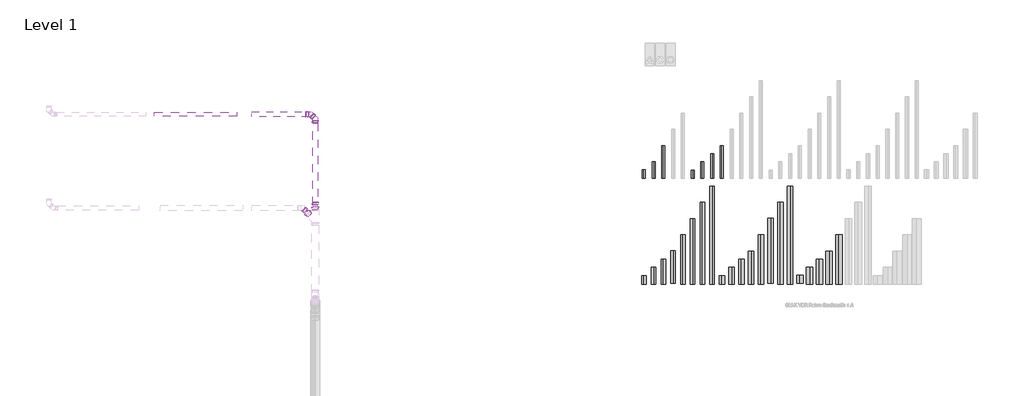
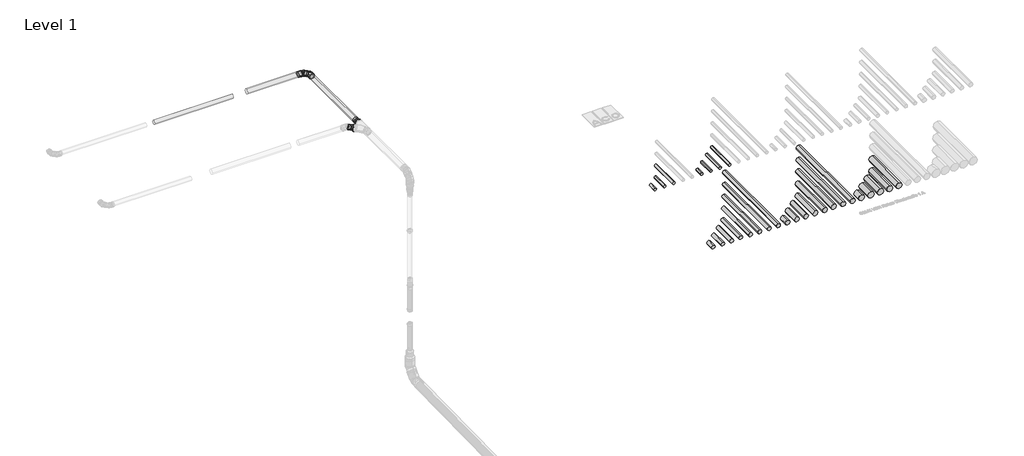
# One storey, part 2 of 4: 31 pipe segments, 15 pipe fittings.
"""IFC4 building model written with IfcOpenShell, lengths in millimetres."""

from ifc_helpers import new_model, si_unit, point, frame, frame_2d, origin, place, context, project, spatial, circle_curve, trimmed, segment, composite_curve, outline, extrude, transform, mapped, element, save
from components import double_bend_d3bed9e9, std_nested_46ab66b3, std_nested_b22cb0b6, std_nested_90d89c33, std_nested_8d21ddc5, std_nested_0b754541, std_nested_fe88de9d, std_nested_dd37de27, std_nested_95e7eb0f

model = new_model("IFC4")

# Units and contexts
model_context = context("Model", 3, world=origin())
ifc_project = project(units=[si_unit("LENGTHUNIT", "METRE", prefix="MILLI")], contexts=[model_context])

# Site, building, storey
site = spatial("IfcSite", under=ifc_project)
building = spatial("IfcBuilding", under=site)
storey = spatial("IfcBuildingStorey", under=building, Name="Level 1", Elevation=0.0)

# Pipe fittings
placement = place(None, origin())
double_bend_shape = double_bend_d3bed9e9(model_context)
element("IfcPipeFitting", 1, ObjectType="PIF_ST_UN_GM-X compound pipe multi-bend_ACO : double bend", at=placement, inside=storey, context=model_context, shape_type="MappedRepresentation", body=[
    mapped(double_bend_shape, transform((-9614.684142, 5223.6615366, 6367.4522786), x_axis=(0.0, 1.0, 0.0), y_axis=(-1.0, 0.0, 0.0), z_axis=(0.0, 0.0, 1.0))),
])
std_nested_shape = std_nested_46ab66b3(model_context)
element("IfcPipeFitting", 2, ObjectType="ZZZ_do not use_PIF_GEN_WPB_GM-X (compound) pipe seal_ACO : std (nested)", at=placement, inside=storey, context=model_context, shape_type="MappedRepresentation", body=[
    mapped(std_nested_shape, transform((-9887.5699643, 5223.6615366, 6367.4522786), x_axis=(0.0, 1.0000000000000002, 0.0), y_axis=(0.0, 0.0, -1.0000000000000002), z_axis=(-1.0000000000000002, 0.0, 0.0))),
])
element("IfcPipeFitting", 3, ObjectType="ZZZ_do not use_PIF_GEN_WPB_GM-X (compound) pipe seal_ACO : std (nested)", at=placement, inside=storey, context=model_context, shape_type="MappedRepresentation", body=[
    mapped(std_nested_shape, transform((-9710.1435574, 5181.2351298, 6367.4522786), x_axis=(0.7071067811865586, 0.7071067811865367, 0.0), y_axis=(0.0, 0.0, -1.0000000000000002), z_axis=(-0.7071067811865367, 0.7071067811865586, 0.0))),
])
element("IfcPipeFitting", 4, ObjectType="ZZZ_do not use_PIF_GEN_WPB_GM-X (compound) pipe seal_ACO : std (nested)", at=placement, inside=storey, context=model_context, shape_type="MappedRepresentation", body=[
    mapped(std_nested_shape, transform((-9954.0953969, 2291.6815182, 6367.4522786), x_axis=(0.7071067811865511, 0.7071067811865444, 0.0), y_axis=(0.0, 0.0, -1.0000000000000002), z_axis=(-0.7071067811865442, 0.707106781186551, 0.0))),
])
element("IfcPipeFitting", 5, ObjectType="ZZZ_do not use_PIF_GEN_WPB_GM-X (compound) pipe seal_ACO : std (nested)", at=placement, inside=storey, context=model_context, shape_type="MappedRepresentation", body=[
    mapped(std_nested_shape, transform((-9614.684142, 2502.2702632, 6367.4522786), x_axis=(1.0, 0.0, 0.0), y_axis=(0.0, 0.0, -1.0), z_axis=(0.0, 1.0, 0.0))),
])
std_nested_2_shape = std_nested_b22cb0b6(model_context)
element("IfcPipeFitting", 6, ObjectType="ZZZ_do not use_PIF_GEN_WPB_GM-X (compound) pipe seal_ACO : std (nested)", at=placement, inside=storey, context=model_context, shape_type="MappedRepresentation", body=[
    mapped(std_nested_2_shape, transform((-9614.684142, 4950.7757143, 6367.4522786), x_axis=(-1.0, 0.0, 0.0), y_axis=(0.0, 0.0, -1.0), z_axis=(0.0, -1.0, 0.0))),
])
std_nested_3_shape = std_nested_90d89c33(model_context)
element("IfcPipeFitting", 7, ObjectType="ZZZ_do not use_PIF_ST_WPB_GM-X compound pipe clamp_ACO : std (nested)", at=placement, inside=storey, context=model_context, shape_type="MappedRepresentation", body=[
    mapped(std_nested_3_shape, transform((-9887.5699643, 5223.6615366, 6367.4522786), x_axis=(0.0, 1.0000000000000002, 0.0), y_axis=(0.0, 0.0, -1.0000000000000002), z_axis=(-1.0000000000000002, 0.0, 0.0))),
])
element("IfcPipeFitting", 8, ObjectType="ZZZ_do not use_PIF_ST_WPB_GM-X compound pipe clamp_ACO : std (nested)", at=placement, inside=storey, context=model_context, shape_type="MappedRepresentation", body=[
    mapped(std_nested_3_shape, transform((-9710.1435574, 5181.2351298, 6367.4522786), x_axis=(0.7071067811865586, 0.7071067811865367, 0.0), y_axis=(0.0, 0.0, -1.0000000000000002), z_axis=(-0.7071067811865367, 0.7071067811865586, 0.0))),
])
element("IfcPipeFitting", 9, ObjectType="ZZZ_do not use_PIF_ST_WPB_GM-X compound pipe clamp_ACO : std (nested)", at=placement, inside=storey, context=model_context, shape_type="MappedRepresentation", body=[
    mapped(std_nested_3_shape, transform((-9954.0953969, 2291.6815182, 6367.4522786), x_axis=(0.7071067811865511, 0.7071067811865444, 0.0), y_axis=(0.0, 0.0, -1.0000000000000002), z_axis=(-0.7071067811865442, 0.707106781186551, 0.0))),
])
element("IfcPipeFitting", 10, ObjectType="ZZZ_do not use_PIF_ST_WPB_GM-X compound pipe clamp_ACO : std (nested)", at=placement, inside=storey, context=model_context, shape_type="MappedRepresentation", body=[
    mapped(std_nested_3_shape, transform((-9614.684142, 2502.2702632, 6367.4522786), x_axis=(1.0, 0.0, 0.0), y_axis=(0.0, 0.0, -1.0), z_axis=(0.0, 1.0, 0.0))),
])
std_nested_4_shape = std_nested_8d21ddc5(model_context)
element("IfcPipeFitting", 11, ObjectType="ZZZ_do not use_PIF_ST_WPB_GM-X compound pipe clamp_ACO : std (nested)", at=placement, inside=storey, context=model_context, shape_type="MappedRepresentation", body=[
    mapped(std_nested_4_shape, transform((-9614.684142, 4950.7757143, 6367.4522786), x_axis=(-1.0, 0.0, 0.0), y_axis=(0.0, 0.0, -1.0), z_axis=(0.0, -1.0, 0.0))),
])
std_nested_5_shape = std_nested_0b754541(model_context)
element("IfcPipeFitting", 12, ObjectType="ZZZ_do not use_PIF_ST_WPB_GM-X compound pipe bend_ACO : std (nested)", at=placement, inside=storey, context=model_context, shape_type="MappedRepresentation", body=[
    mapped(std_nested_5_shape, transform((-9614.684142, 5085.7757143, 6367.4522786), x_axis=(0.0, 1.0, 0.0), y_axis=(-1.0, 0.0, 0.0), z_axis=(0.0, 0.0, 1.0))),
])
std_nested_6_shape = std_nested_fe88de9d(model_context)
element("IfcPipeFitting", 13, ObjectType="ZZZ_do not use_PIF_ST_WPB_GM-X compound pipe bend_ACO : std (nested)", at=placement, inside=storey, context=model_context, shape_type="MappedRepresentation", body=[
    mapped(std_nested_6_shape, transform((-9752.5699643, 5223.6615366, 6367.4522786), x_axis=(-0.7071067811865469, 0.7071067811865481, 0.0), y_axis=(-0.7071067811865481, -0.7071067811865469, 0.0), z_axis=(0.0, 0.0, 1.0))),
])
std_nested_7_shape = std_nested_dd37de27(model_context)
element("IfcPipeFitting", 14, ObjectType="ZZZ_do not use_PIF_ST_WPB_GM-X compound pipe reducer_ACO : std (nested)", at=placement, inside=storey, context=model_context, shape_type="MappedRepresentation", body=[
    mapped(std_nested_7_shape, transform((-9784.3897694, 2121.9758907, 6367.4522786), x_axis=(-0.7071067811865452, 0.70710678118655, 0.0), y_axis=(-0.7071067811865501, -0.7071067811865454, 0.0), z_axis=(0.0, 0.0, 1.0000000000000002))),
])
std_nested_8_shape = std_nested_95e7eb0f(model_context)
element("IfcPipeFitting", 15, ObjectType="ZZZ_do not use_PIF_ST_WPB_GM-X compound pipe reducer_ACO : std (nested)", at=placement, inside=storey, context=model_context, shape_type="MappedRepresentation", body=[
    mapped(std_nested_8_shape, transform((-9614.684142, 2262.2702632, 6367.4522786), x_axis=(0.0, -1.0, 0.0), y_axis=(1.0, 0.0, 0.0), z_axis=(0.0, 0.0, 1.0))),
])

# Pipe segments
element("IfcPipeSegment", 16, ObjectType="GM-X compound pipe", at=placement, inside=storey, context=model_context, shape_type="SweptSolid", body=[
    extrude(outline(composite_curve([segment(trimmed(circle_curve(frame_2d((0.0, 500.0)), 44.5), [point((0.0, 544.5))], [point((44.5, 500.0))], False, "CARTESIAN"), True, "CONTINUOUS"), segment(trimmed(circle_curve(frame_2d((0.0, 500.0)), 44.5), [point((44.5, 500.0))], [point((0.0, 455.5))], False, "CARTESIAN"), True, "CONTINUOUS"), segment(trimmed(circle_curve(frame_2d((0.0, 500.0)), 44.5), [point((0.0, 455.5))], [point((-44.5, 500.0))], False, "CARTESIAN"), True, "CONTINUOUS"), segment(trimmed(circle_curve(frame_2d((0.0, 500.0)), 44.5), [point((-44.5, 500.0))], [point((0.0, 544.5))], False, "CARTESIAN"), True, "CONTINUOUS")], self_intersect=False)), frame((0.0, 3250.0, 0.0), z_axis=(0.0, 1.0, 0.0), x_axis=(0.0, 0.0, 1.0)), (0.0, 0.0, 1.0), 260.0),
])
element("IfcPipeSegment", 17, ObjectType="GM-X compound pipe", at=placement, inside=storey, context=model_context, shape_type="SweptSolid", body=[
    extrude(outline(composite_curve([segment(trimmed(circle_curve(frame_2d((0.0, 800.0)), 44.5), [point((0.0, 844.5))], [point((44.5, 800.0))], False, "CARTESIAN"), True, "CONTINUOUS"), segment(trimmed(circle_curve(frame_2d((0.0, 800.0)), 44.5), [point((44.5, 800.0))], [point((0.0, 755.5))], False, "CARTESIAN"), True, "CONTINUOUS"), segment(trimmed(circle_curve(frame_2d((0.0, 800.0)), 44.5), [point((0.0, 755.5))], [point((-44.5, 800.0))], False, "CARTESIAN"), True, "CONTINUOUS"), segment(trimmed(circle_curve(frame_2d((0.0, 800.0)), 44.5), [point((-44.5, 800.0))], [point((0.0, 844.5))], False, "CARTESIAN"), True, "CONTINUOUS")], self_intersect=False)), frame((0.0, 3250.0, 0.0), z_axis=(0.0, 1.0, 0.0), x_axis=(0.0, 0.0, 1.0)), (0.0, 0.0, 1.0), 510.0),
])
element("IfcPipeSegment", 18, ObjectType="GM-X compound pipe", at=placement, inside=storey, context=model_context, shape_type="SweptSolid", body=[
    extrude(outline(composite_curve([segment(trimmed(circle_curve(frame_2d((0.0, 1100.0)), 44.5), [point((0.0, 1144.5))], [point((44.5, 1100.0))], False, "CARTESIAN"), True, "CONTINUOUS"), segment(trimmed(circle_curve(frame_2d((0.0, 1100.0)), 44.5), [point((44.5, 1100.0))], [point((0.0, 1055.5))], False, "CARTESIAN"), True, "CONTINUOUS"), segment(trimmed(circle_curve(frame_2d((0.0, 1100.0)), 44.5), [point((0.0, 1055.5))], [point((-44.5, 1100.0))], False, "CARTESIAN"), True, "CONTINUOUS"), segment(trimmed(circle_curve(frame_2d((0.0, 1100.0)), 44.5), [point((-44.5, 1100.0))], [point((0.0, 1144.5))], False, "CARTESIAN"), True, "CONTINUOUS")], self_intersect=False)), frame((0.0, 3250.0, 0.0), z_axis=(0.0, 1.0, 0.0), x_axis=(0.0, 0.0, 1.0)), (0.0, 0.0, 1.0), 1010.0),
])
element("IfcPipeSegment", 19, ObjectType="GM-X compound pipe", at=placement, inside=storey, context=model_context, shape_type="SweptSolid", body=[
    extrude(outline(composite_curve([segment(trimmed(circle_curve(frame_2d((0.0, 2000.0)), 44.5), [point((0.0, 2044.5))], [point((44.5, 2000.0))], False, "CARTESIAN"), True, "CONTINUOUS"), segment(trimmed(circle_curve(frame_2d((0.0, 2000.0)), 44.5), [point((44.5, 2000.0))], [point((0.0, 1955.5))], False, "CARTESIAN"), True, "CONTINUOUS"), segment(trimmed(circle_curve(frame_2d((0.0, 2000.0)), 44.5), [point((0.0, 1955.5))], [point((-44.5, 2000.0))], False, "CARTESIAN"), True, "CONTINUOUS"), segment(trimmed(circle_curve(frame_2d((0.0, 2000.0)), 44.5), [point((-44.5, 2000.0))], [point((0.0, 2044.5))], False, "CARTESIAN"), True, "CONTINUOUS")], self_intersect=False)), frame((0.0, 3250.0, 0.0), z_axis=(0.0, 1.0, 0.0), x_axis=(0.0, 0.0, 1.0)), (0.0, 0.0, 1.0), 258.0),
])
element("IfcPipeSegment", 20, ObjectType="GM-X compound pipe", at=placement, inside=storey, context=model_context, shape_type="SweptSolid", body=[
    extrude(outline(composite_curve([segment(trimmed(circle_curve(frame_2d((0.0, 2300.0)), 44.5), [point((0.0, 2344.5))], [point((44.5, 2300.0))], False, "CARTESIAN"), True, "CONTINUOUS"), segment(trimmed(circle_curve(frame_2d((0.0, 2300.0)), 44.5), [point((44.5, 2300.0))], [point((0.0, 2255.5))], False, "CARTESIAN"), True, "CONTINUOUS"), segment(trimmed(circle_curve(frame_2d((0.0, 2300.0)), 44.5), [point((0.0, 2255.5))], [point((-44.5, 2300.0))], False, "CARTESIAN"), True, "CONTINUOUS"), segment(trimmed(circle_curve(frame_2d((0.0, 2300.0)), 44.5), [point((-44.5, 2300.0))], [point((0.0, 2344.5))], False, "CARTESIAN"), True, "CONTINUOUS")], self_intersect=False)), frame((0.0, 3250.0, 0.0), z_axis=(0.0, 1.0, 0.0), x_axis=(0.0, 0.0, 1.0)), (0.0, 0.0, 1.0), 508.0),
])
element("IfcPipeSegment", 21, ObjectType="GM-X compound pipe", at=placement, inside=storey, context=model_context, shape_type="SweptSolid", body=[
    extrude(outline(composite_curve([segment(trimmed(circle_curve(frame_2d((0.0, 2600.0)), 44.5), [point((0.0, 2644.5))], [point((44.5, 2600.0))], False, "CARTESIAN"), True, "CONTINUOUS"), segment(trimmed(circle_curve(frame_2d((0.0, 2600.0)), 44.5), [point((44.5, 2600.0))], [point((0.0, 2555.5))], False, "CARTESIAN"), True, "CONTINUOUS"), segment(trimmed(circle_curve(frame_2d((0.0, 2600.0)), 44.5), [point((0.0, 2555.5))], [point((-44.5, 2600.0))], False, "CARTESIAN"), True, "CONTINUOUS"), segment(trimmed(circle_curve(frame_2d((0.0, 2600.0)), 44.5), [point((-44.5, 2600.0))], [point((0.0, 2644.5))], False, "CARTESIAN"), True, "CONTINUOUS")], self_intersect=False)), frame((0.0, 3250.0, 0.0), z_axis=(0.0, 1.0, 0.0), x_axis=(0.0, 0.0, 1.0)), (0.0, 0.0, 1.0), 758.0),
])
element("IfcPipeSegment", 22, ObjectType="GM-X compound pipe", at=placement, inside=storey, context=model_context, shape_type="SweptSolid", body=[
    extrude(outline(composite_curve([segment(trimmed(circle_curve(frame_2d((0.0, 2900.0)), 44.5), [point((0.0, 2944.5))], [point((44.5, 2900.0))], False, "CARTESIAN"), True, "CONTINUOUS"), segment(trimmed(circle_curve(frame_2d((0.0, 2900.0)), 44.5), [point((44.5, 2900.0))], [point((0.0, 2855.5))], False, "CARTESIAN"), True, "CONTINUOUS"), segment(trimmed(circle_curve(frame_2d((0.0, 2900.0)), 44.5), [point((0.0, 2855.5))], [point((-44.5, 2900.0))], False, "CARTESIAN"), True, "CONTINUOUS"), segment(trimmed(circle_curve(frame_2d((0.0, 2900.0)), 44.5), [point((-44.5, 2900.0))], [point((0.0, 2944.5))], False, "CARTESIAN"), True, "CONTINUOUS")], self_intersect=False)), frame((0.0, 3250.0, 0.0), z_axis=(0.0, 1.0, 0.0), x_axis=(0.0, 0.0, 1.0)), (0.0, 0.0, 1.0), 1008.0),
])
element("IfcPipeSegment", 23, ObjectType="GM-X compound pipe", at=placement, inside=storey, context=model_context, shape_type="SweptSolid", body=[
    extrude(outline(composite_curve([segment(trimmed(circle_curve(frame_2d((0.0, 500.0)), 67.0), [point((0.0, 567.0))], [point((67.0, 500.0))], False, "CARTESIAN"), True, "CONTINUOUS"), segment(trimmed(circle_curve(frame_2d((0.0, 500.0)), 67.0), [point((67.0, 500.0))], [point((0.0, 433.0))], False, "CARTESIAN"), True, "CONTINUOUS"), segment(trimmed(circle_curve(frame_2d((0.0, 500.0)), 67.0), [point((0.0, 433.0))], [point((-67.0, 500.0))], False, "CARTESIAN"), True, "CONTINUOUS"), segment(trimmed(circle_curve(frame_2d((0.0, 500.0)), 67.0), [point((-67.0, 500.0))], [point((0.0, 567.0))], False, "CARTESIAN"), True, "CONTINUOUS")], self_intersect=False)), frame((0.0, 0.0, 0.0), z_axis=(0.0, 1.0, 0.0), x_axis=(0.0, 0.0, 1.0)), (0.0, 0.0, 1.0), 260.0),
])
element("IfcPipeSegment", 24, ObjectType="GM-X compound pipe", at=placement, inside=storey, context=model_context, shape_type="SweptSolid", body=[
    extrude(outline(composite_curve([segment(trimmed(circle_curve(frame_2d((0.0, 800.0)), 67.0), [point((0.0, 867.0))], [point((67.0, 800.0))], False, "CARTESIAN"), True, "CONTINUOUS"), segment(trimmed(circle_curve(frame_2d((0.0, 800.0)), 67.0), [point((67.0, 800.0))], [point((0.0, 733.0))], False, "CARTESIAN"), True, "CONTINUOUS"), segment(trimmed(circle_curve(frame_2d((0.0, 800.0)), 67.0), [point((0.0, 733.0))], [point((-67.0, 800.0))], False, "CARTESIAN"), True, "CONTINUOUS"), segment(trimmed(circle_curve(frame_2d((0.0, 800.0)), 67.0), [point((-67.0, 800.0))], [point((0.0, 867.0))], False, "CARTESIAN"), True, "CONTINUOUS")], self_intersect=False)), frame((0.0, 0.0, 0.0), z_axis=(0.0, 1.0, 0.0), x_axis=(0.0, 0.0, 1.0)), (0.0, 0.0, 1.0), 510.0),
])
element("IfcPipeSegment", 25, ObjectType="GM-X compound pipe", at=placement, inside=storey, context=model_context, shape_type="SweptSolid", body=[
    extrude(outline(composite_curve([segment(trimmed(circle_curve(frame_2d((0.0, 1100.0)), 67.0), [point((0.0, 1167.0))], [point((67.0, 1100.0))], False, "CARTESIAN"), True, "CONTINUOUS"), segment(trimmed(circle_curve(frame_2d((0.0, 1100.0)), 67.0), [point((67.0, 1100.0))], [point((0.0, 1033.0))], False, "CARTESIAN"), True, "CONTINUOUS"), segment(trimmed(circle_curve(frame_2d((0.0, 1100.0)), 67.0), [point((0.0, 1033.0))], [point((-67.0, 1100.0))], False, "CARTESIAN"), True, "CONTINUOUS"), segment(trimmed(circle_curve(frame_2d((0.0, 1100.0)), 67.0), [point((-67.0, 1100.0))], [point((0.0, 1167.0))], False, "CARTESIAN"), True, "CONTINUOUS")], self_intersect=False)), frame((0.0, 0.0, 0.0), z_axis=(0.0, 1.0, 0.0), x_axis=(0.0, 0.0, 1.0)), (0.0, 0.0, 1.0), 760.0),
])
element("IfcPipeSegment", 26, ObjectType="GM-X compound pipe", at=placement, inside=storey, context=model_context, shape_type="SweptSolid", body=[
    extrude(outline(composite_curve([segment(trimmed(circle_curve(frame_2d((0.0, 1400.0)), 67.0), [point((0.0, 1467.0))], [point((67.0, 1400.0))], False, "CARTESIAN"), True, "CONTINUOUS"), segment(trimmed(circle_curve(frame_2d((0.0, 1400.0)), 67.0), [point((67.0, 1400.0))], [point((0.0, 1333.0))], False, "CARTESIAN"), True, "CONTINUOUS"), segment(trimmed(circle_curve(frame_2d((0.0, 1400.0)), 67.0), [point((0.0, 1333.0))], [point((-67.0, 1400.0))], False, "CARTESIAN"), True, "CONTINUOUS"), segment(trimmed(circle_curve(frame_2d((0.0, 1400.0)), 67.0), [point((-67.0, 1400.0))], [point((0.0, 1467.0))], False, "CARTESIAN"), True, "CONTINUOUS")], self_intersect=False)), frame((0.0, 16.3427665, 0.0), z_axis=(0.0, 1.0, 0.0), x_axis=(0.0, 0.0, 1.0)), (0.0, 0.0, 1.0), 1010.0),
])
element("IfcPipeSegment", 27, ObjectType="GM-X compound pipe", at=placement, inside=storey, context=model_context, shape_type="SweptSolid", body=[
    extrude(outline(composite_curve([segment(trimmed(circle_curve(frame_2d((0.0, 1700.0)), 67.0), [point((0.0, 1767.0))], [point((67.0, 1700.0))], False, "CARTESIAN"), True, "CONTINUOUS"), segment(trimmed(circle_curve(frame_2d((0.0, 1700.0)), 67.0), [point((67.0, 1700.0))], [point((0.0, 1633.0))], False, "CARTESIAN"), True, "CONTINUOUS"), segment(trimmed(circle_curve(frame_2d((0.0, 1700.0)), 67.0), [point((0.0, 1633.0))], [point((-67.0, 1700.0))], False, "CARTESIAN"), True, "CONTINUOUS"), segment(trimmed(circle_curve(frame_2d((0.0, 1700.0)), 67.0), [point((-67.0, 1700.0))], [point((0.0, 1767.0))], False, "CARTESIAN"), True, "CONTINUOUS")], self_intersect=False)), frame((0.0, 0.0, 0.0), z_axis=(0.0, 1.0, 0.0), x_axis=(0.0, 0.0, 1.0)), (0.0, 0.0, 1.0), 1510.0),
])
element("IfcPipeSegment", 28, ObjectType="GM-X compound pipe", at=placement, inside=storey, context=model_context, shape_type="SweptSolid", body=[
    extrude(outline(composite_curve([segment(trimmed(circle_curve(frame_2d((0.0, 2000.0)), 67.0), [point((0.0, 2067.0))], [point((67.0, 2000.0))], False, "CARTESIAN"), True, "CONTINUOUS"), segment(trimmed(circle_curve(frame_2d((0.0, 2000.0)), 67.0), [point((67.0, 2000.0))], [point((0.0, 1933.0))], False, "CARTESIAN"), True, "CONTINUOUS"), segment(trimmed(circle_curve(frame_2d((0.0, 2000.0)), 67.0), [point((0.0, 1933.0))], [point((-67.0, 2000.0))], False, "CARTESIAN"), True, "CONTINUOUS"), segment(trimmed(circle_curve(frame_2d((0.0, 2000.0)), 67.0), [point((-67.0, 2000.0))], [point((0.0, 2067.0))], False, "CARTESIAN"), True, "CONTINUOUS")], self_intersect=False)), frame((0.0, 0.0, 0.0), z_axis=(0.0, 1.0, 0.0), x_axis=(0.0, 0.0, 1.0)), (0.0, 0.0, 1.0), 2010.0),
])
element("IfcPipeSegment", 29, ObjectType="GM-X compound pipe", at=placement, inside=storey, context=model_context, shape_type="SweptSolid", body=[
    extrude(outline(composite_curve([segment(trimmed(circle_curve(frame_2d((0.0, 2300.0)), 67.0), [point((0.0, 2367.0))], [point((67.0, 2300.0))], False, "CARTESIAN"), True, "CONTINUOUS"), segment(trimmed(circle_curve(frame_2d((0.0, 2300.0)), 67.0), [point((67.0, 2300.0))], [point((0.0, 2233.0))], False, "CARTESIAN"), True, "CONTINUOUS"), segment(trimmed(circle_curve(frame_2d((0.0, 2300.0)), 67.0), [point((0.0, 2233.0))], [point((-67.0, 2300.0))], False, "CARTESIAN"), True, "CONTINUOUS"), segment(trimmed(circle_curve(frame_2d((0.0, 2300.0)), 67.0), [point((-67.0, 2300.0))], [point((0.0, 2367.0))], False, "CARTESIAN"), True, "CONTINUOUS")], self_intersect=False)), frame((0.0, 0.0, 0.0), z_axis=(0.0, 1.0, 0.0), x_axis=(0.0, 0.0, 1.0)), (0.0, 0.0, 1.0), 2510.0),
])
element("IfcPipeSegment", 30, ObjectType="GM-X compound pipe", at=placement, inside=storey, context=model_context, shape_type="SweptSolid", body=[
    extrude(outline(composite_curve([segment(trimmed(circle_curve(frame_2d((0.0, 2600.0)), 67.0), [point((0.0, 2667.0))], [point((67.0, 2600.0))], False, "CARTESIAN"), True, "CONTINUOUS"), segment(trimmed(circle_curve(frame_2d((0.0, 2600.0)), 67.0), [point((67.0, 2600.0))], [point((0.0, 2533.0))], False, "CARTESIAN"), True, "CONTINUOUS"), segment(trimmed(circle_curve(frame_2d((0.0, 2600.0)), 67.0), [point((0.0, 2533.0))], [point((-67.0, 2600.0))], False, "CARTESIAN"), True, "CONTINUOUS"), segment(trimmed(circle_curve(frame_2d((0.0, 2600.0)), 67.0), [point((-67.0, 2600.0))], [point((0.0, 2667.0))], False, "CARTESIAN"), True, "CONTINUOUS")], self_intersect=False)), frame((0.0, 0.0, 0.0), z_axis=(0.0, 1.0, 0.0), x_axis=(0.0, 0.0, 1.0)), (0.0, 0.0, 1.0), 3010.0),
])
element("IfcPipeSegment", 31, ObjectType="GM-X compound pipe", at=placement, inside=storey, context=model_context, shape_type="SweptSolid", body=[
    extrude(outline(composite_curve([segment(trimmed(circle_curve(frame_2d((0.0, 2900.0)), 82.0), [point((0.0, 2982.0))], [point((82.0, 2900.0))], False, "CARTESIAN"), True, "CONTINUOUS"), segment(trimmed(circle_curve(frame_2d((0.0, 2900.0)), 82.0), [point((82.0, 2900.0))], [point((0.0, 2818.0))], False, "CARTESIAN"), True, "CONTINUOUS"), segment(trimmed(circle_curve(frame_2d((0.0, 2900.0)), 82.0), [point((0.0, 2818.0))], [point((-82.0, 2900.0))], False, "CARTESIAN"), True, "CONTINUOUS"), segment(trimmed(circle_curve(frame_2d((0.0, 2900.0)), 82.0), [point((-82.0, 2900.0))], [point((0.0, 2982.0))], False, "CARTESIAN"), True, "CONTINUOUS")], self_intersect=False)), frame((0.0, 0.0, 0.0), z_axis=(0.0, 1.0, 0.0), x_axis=(0.0, 0.0, 1.0)), (0.0, 0.0, 1.0), 260.0),
])
element("IfcPipeSegment", 32, ObjectType="GM-X compound pipe", at=placement, inside=storey, context=model_context, shape_type="SweptSolid", body=[
    extrude(outline(composite_curve([segment(trimmed(circle_curve(frame_2d((0.0, 3200.0)), 82.0), [point((0.0, 3282.0))], [point((82.0, 3200.0))], False, "CARTESIAN"), True, "CONTINUOUS"), segment(trimmed(circle_curve(frame_2d((0.0, 3200.0)), 82.0), [point((82.0, 3200.0))], [point((0.0, 3118.0))], False, "CARTESIAN"), True, "CONTINUOUS"), segment(trimmed(circle_curve(frame_2d((0.0, 3200.0)), 82.0), [point((0.0, 3118.0))], [point((-82.0, 3200.0))], False, "CARTESIAN"), True, "CONTINUOUS"), segment(trimmed(circle_curve(frame_2d((0.0, 3200.0)), 82.0), [point((-82.0, 3200.0))], [point((0.0, 3282.0))], False, "CARTESIAN"), True, "CONTINUOUS")], self_intersect=False)), frame((0.0, 0.0, 0.0), z_axis=(0.0, 1.0, 0.0), x_axis=(0.0, 0.0, 1.0)), (0.0, 0.0, 1.0), 510.0),
])
element("IfcPipeSegment", 33, ObjectType="GM-X compound pipe", at=placement, inside=storey, context=model_context, shape_type="SweptSolid", body=[
    extrude(outline(composite_curve([segment(trimmed(circle_curve(frame_2d((0.0, 3500.0)), 82.0), [point((0.0, 3582.0))], [point((82.0, 3500.0))], False, "CARTESIAN"), True, "CONTINUOUS"), segment(trimmed(circle_curve(frame_2d((0.0, 3500.0)), 82.0), [point((82.0, 3500.0))], [point((0.0, 3418.0))], False, "CARTESIAN"), True, "CONTINUOUS"), segment(trimmed(circle_curve(frame_2d((0.0, 3500.0)), 82.0), [point((0.0, 3418.0))], [point((-82.0, 3500.0))], False, "CARTESIAN"), True, "CONTINUOUS"), segment(trimmed(circle_curve(frame_2d((0.0, 3500.0)), 82.0), [point((-82.0, 3500.0))], [point((0.0, 3582.0))], False, "CARTESIAN"), True, "CONTINUOUS")], self_intersect=False)), frame((0.0, 0.0, 0.0), z_axis=(0.0, 1.0, 0.0), x_axis=(0.0, 0.0, 1.0)), (0.0, 0.0, 1.0), 760.0),
])
element("IfcPipeSegment", 34, ObjectType="GM-X compound pipe", at=placement, inside=storey, context=model_context, shape_type="SweptSolid", body=[
    extrude(outline(composite_curve([segment(trimmed(circle_curve(frame_2d((0.0, 3800.0)), 82.0), [point((0.0, 3882.0))], [point((82.0, 3800.0))], False, "CARTESIAN"), True, "CONTINUOUS"), segment(trimmed(circle_curve(frame_2d((0.0, 3800.0)), 82.0), [point((82.0, 3800.0))], [point((0.0, 3718.0))], False, "CARTESIAN"), True, "CONTINUOUS"), segment(trimmed(circle_curve(frame_2d((0.0, 3800.0)), 82.0), [point((0.0, 3718.0))], [point((-82.0, 3800.0))], False, "CARTESIAN"), True, "CONTINUOUS"), segment(trimmed(circle_curve(frame_2d((0.0, 3800.0)), 82.0), [point((-82.0, 3800.0))], [point((0.0, 3882.0))], False, "CARTESIAN"), True, "CONTINUOUS")], self_intersect=False)), frame((0.0, 0.0, 0.0), z_axis=(0.0, 1.0, 0.0), x_axis=(0.0, 0.0, 1.0)), (0.0, 0.0, 1.0), 1010.0),
])
element("IfcPipeSegment", 35, ObjectType="GM-X compound pipe", at=placement, inside=storey, context=model_context, shape_type="SweptSolid", body=[
    extrude(outline(composite_curve([segment(trimmed(circle_curve(frame_2d((0.0, 4100.0)), 82.0), [point((0.0, 4182.0))], [point((82.0, 4100.0))], False, "CARTESIAN"), True, "CONTINUOUS"), segment(trimmed(circle_curve(frame_2d((0.0, 4100.0)), 82.0), [point((82.0, 4100.0))], [point((0.0, 4018.0))], False, "CARTESIAN"), True, "CONTINUOUS"), segment(trimmed(circle_curve(frame_2d((0.0, 4100.0)), 82.0), [point((0.0, 4018.0))], [point((-82.0, 4100.0))], False, "CARTESIAN"), True, "CONTINUOUS"), segment(trimmed(circle_curve(frame_2d((0.0, 4100.0)), 82.0), [point((-82.0, 4100.0))], [point((0.0, 4182.0))], False, "CARTESIAN"), True, "CONTINUOUS")], self_intersect=False)), frame((0.0, 0.0, 0.0), z_axis=(0.0, 1.0, 0.0), x_axis=(0.0, 0.0, 1.0)), (0.0, 0.0, 1.0), 1510.0),
])
element("IfcPipeSegment", 36, ObjectType="GM-X compound pipe", at=placement, inside=storey, context=model_context, shape_type="SweptSolid", body=[
    extrude(outline(composite_curve([segment(trimmed(circle_curve(frame_2d((0.0, 4400.0)), 82.0), [point((0.0, 4482.0))], [point((82.0, 4400.0))], False, "CARTESIAN"), True, "CONTINUOUS"), segment(trimmed(circle_curve(frame_2d((0.0, 4400.0)), 82.0), [point((82.0, 4400.0))], [point((0.0, 4318.0))], False, "CARTESIAN"), True, "CONTINUOUS"), segment(trimmed(circle_curve(frame_2d((0.0, 4400.0)), 82.0), [point((0.0, 4318.0))], [point((-82.0, 4400.0))], False, "CARTESIAN"), True, "CONTINUOUS"), segment(trimmed(circle_curve(frame_2d((0.0, 4400.0)), 82.0), [point((-82.0, 4400.0))], [point((0.0, 4482.0))], False, "CARTESIAN"), True, "CONTINUOUS")], self_intersect=False)), frame((0.0, 16.3427665, 0.0), z_axis=(0.0, 1.0, 0.0), x_axis=(0.0, 0.0, 1.0)), (0.0, 0.0, 1.0), 2010.0),
])
element("IfcPipeSegment", 37, ObjectType="GM-X compound pipe", at=placement, inside=storey, context=model_context, shape_type="SweptSolid", body=[
    extrude(outline(composite_curve([segment(trimmed(circle_curve(frame_2d((0.0, 4700.0)), 82.0), [point((0.0, 4782.0))], [point((82.0, 4700.0))], False, "CARTESIAN"), True, "CONTINUOUS"), segment(trimmed(circle_curve(frame_2d((0.0, 4700.0)), 82.0), [point((82.0, 4700.0))], [point((0.0, 4618.0))], False, "CARTESIAN"), True, "CONTINUOUS"), segment(trimmed(circle_curve(frame_2d((0.0, 4700.0)), 82.0), [point((0.0, 4618.0))], [point((-82.0, 4700.0))], False, "CARTESIAN"), True, "CONTINUOUS"), segment(trimmed(circle_curve(frame_2d((0.0, 4700.0)), 82.0), [point((-82.0, 4700.0))], [point((0.0, 4782.0))], False, "CARTESIAN"), True, "CONTINUOUS")], self_intersect=False)), frame((0.0, 0.0, 0.0), z_axis=(0.0, 1.0, 0.0), x_axis=(0.0, 0.0, 1.0)), (0.0, 0.0, 1.0), 2510.0),
])
element("IfcPipeSegment", 38, ObjectType="GM-X compound pipe", at=placement, inside=storey, context=model_context, shape_type="SweptSolid", body=[
    extrude(outline(composite_curve([segment(trimmed(circle_curve(frame_2d((0.0, 5000.0)), 82.0), [point((0.0, 5082.0))], [point((82.0, 5000.0))], False, "CARTESIAN"), True, "CONTINUOUS"), segment(trimmed(circle_curve(frame_2d((0.0, 5000.0)), 82.0), [point((82.0, 5000.0))], [point((0.0, 4918.0))], False, "CARTESIAN"), True, "CONTINUOUS"), segment(trimmed(circle_curve(frame_2d((0.0, 5000.0)), 82.0), [point((0.0, 4918.0))], [point((-82.0, 5000.0))], False, "CARTESIAN"), True, "CONTINUOUS"), segment(trimmed(circle_curve(frame_2d((0.0, 5000.0)), 82.0), [point((-82.0, 5000.0))], [point((0.0, 5082.0))], False, "CARTESIAN"), True, "CONTINUOUS")], self_intersect=False)), frame((0.0, 0.0, 0.0), z_axis=(0.0, 1.0, 0.0), x_axis=(0.0, 0.0, 1.0)), (0.0, 0.0, 1.0), 3010.0),
])
element("IfcPipeSegment", 39, ObjectType="GM-X compound pipe", at=placement, inside=storey, context=model_context, shape_type="SweptSolid", body=[
    extrude(outline(composite_curve([segment(trimmed(circle_curve(frame_2d((0.0, 5300.0)), 102.0), [point((0.0, 5402.0))], [point((102.0, 5300.0))], False, "CARTESIAN"), True, "CONTINUOUS"), segment(trimmed(circle_curve(frame_2d((0.0, 5300.0)), 102.0), [point((102.0, 5300.0))], [point((0.0, 5198.0))], False, "CARTESIAN"), True, "CONTINUOUS"), segment(trimmed(circle_curve(frame_2d((0.0, 5300.0)), 102.0), [point((0.0, 5198.0))], [point((-102.0, 5300.0))], False, "CARTESIAN"), True, "CONTINUOUS"), segment(trimmed(circle_curve(frame_2d((0.0, 5300.0)), 102.0), [point((-102.0, 5300.0))], [point((0.0, 5402.0))], False, "CARTESIAN"), True, "CONTINUOUS")], self_intersect=False)), frame((0.0, 16.3427665, 0.0), z_axis=(0.0, 1.0, 0.0), x_axis=(0.0, 0.0, 1.0)), (0.0, 0.0, 1.0), 260.0),
])
element("IfcPipeSegment", 40, ObjectType="GM-X compound pipe", at=placement, inside=storey, context=model_context, shape_type="SweptSolid", body=[
    extrude(outline(composite_curve([segment(trimmed(circle_curve(frame_2d((0.0, 5600.0)), 102.0), [point((0.0, 5702.0))], [point((102.0, 5600.0))], False, "CARTESIAN"), True, "CONTINUOUS"), segment(trimmed(circle_curve(frame_2d((0.0, 5600.0)), 102.0), [point((102.0, 5600.0))], [point((0.0, 5498.0))], False, "CARTESIAN"), True, "CONTINUOUS"), segment(trimmed(circle_curve(frame_2d((0.0, 5600.0)), 102.0), [point((0.0, 5498.0))], [point((-102.0, 5600.0))], False, "CARTESIAN"), True, "CONTINUOUS"), segment(trimmed(circle_curve(frame_2d((0.0, 5600.0)), 102.0), [point((-102.0, 5600.0))], [point((0.0, 5702.0))], False, "CARTESIAN"), True, "CONTINUOUS")], self_intersect=False)), frame((0.0, 0.0, 0.0), z_axis=(0.0, 1.0, 0.0), x_axis=(0.0, 0.0, 1.0)), (0.0, 0.0, 1.0), 510.0),
])
element("IfcPipeSegment", 41, ObjectType="GM-X compound pipe", at=placement, inside=storey, context=model_context, shape_type="SweptSolid", body=[
    extrude(outline(composite_curve([segment(trimmed(circle_curve(frame_2d((0.0, 5900.0)), 102.0), [point((0.0, 6002.0))], [point((102.0, 5900.0))], False, "CARTESIAN"), True, "CONTINUOUS"), segment(trimmed(circle_curve(frame_2d((0.0, 5900.0)), 102.0), [point((102.0, 5900.0))], [point((0.0, 5798.0))], False, "CARTESIAN"), True, "CONTINUOUS"), segment(trimmed(circle_curve(frame_2d((0.0, 5900.0)), 102.0), [point((0.0, 5798.0))], [point((-102.0, 5900.0))], False, "CARTESIAN"), True, "CONTINUOUS"), segment(trimmed(circle_curve(frame_2d((0.0, 5900.0)), 102.0), [point((-102.0, 5900.0))], [point((0.0, 6002.0))], False, "CARTESIAN"), True, "CONTINUOUS")], self_intersect=False)), frame((0.0, 0.0, 0.0), z_axis=(0.0, 1.0, 0.0), x_axis=(0.0, 0.0, 1.0)), (0.0, 0.0, 1.0), 760.0),
])
element("IfcPipeSegment", 42, ObjectType="GM-X compound pipe", at=placement, inside=storey, context=model_context, shape_type="SweptSolid", body=[
    extrude(outline(composite_curve([segment(trimmed(circle_curve(frame_2d((0.0, 6200.0)), 102.0), [point((0.0, 6302.0))], [point((102.0, 6200.0))], False, "CARTESIAN"), True, "CONTINUOUS"), segment(trimmed(circle_curve(frame_2d((0.0, 6200.0)), 102.0), [point((102.0, 6200.0))], [point((0.0, 6098.0))], False, "CARTESIAN"), True, "CONTINUOUS"), segment(trimmed(circle_curve(frame_2d((0.0, 6200.0)), 102.0), [point((0.0, 6098.0))], [point((-102.0, 6200.0))], False, "CARTESIAN"), True, "CONTINUOUS"), segment(trimmed(circle_curve(frame_2d((0.0, 6200.0)), 102.0), [point((-102.0, 6200.0))], [point((0.0, 6302.0))], False, "CARTESIAN"), True, "CONTINUOUS")], self_intersect=False)), frame((0.0, 0.0, 0.0), z_axis=(0.0, 1.0, 0.0), x_axis=(0.0, 0.0, 1.0)), (0.0, 0.0, 1.0), 1010.0),
])
element("IfcPipeSegment", 43, ObjectType="GM-X compound pipe", at=placement, inside=storey, context=model_context, shape_type="SweptSolid", body=[
    extrude(outline(composite_curve([segment(trimmed(circle_curve(frame_2d((0.0, 6500.0)), 102.0), [point((0.0, 6602.0))], [point((102.0, 6500.0))], False, "CARTESIAN"), True, "CONTINUOUS"), segment(trimmed(circle_curve(frame_2d((0.0, 6500.0)), 102.0), [point((102.0, 6500.0))], [point((0.0, 6398.0))], False, "CARTESIAN"), True, "CONTINUOUS"), segment(trimmed(circle_curve(frame_2d((0.0, 6500.0)), 102.0), [point((0.0, 6398.0))], [point((-102.0, 6500.0))], False, "CARTESIAN"), True, "CONTINUOUS"), segment(trimmed(circle_curve(frame_2d((0.0, 6500.0)), 102.0), [point((-102.0, 6500.0))], [point((0.0, 6602.0))], False, "CARTESIAN"), True, "CONTINUOUS")], self_intersect=False)), frame((0.0, 0.0, 0.0), z_axis=(0.0, 1.0, 0.0), x_axis=(0.0, 0.0, 1.0)), (0.0, 0.0, 1.0), 1510.0),
])
element("IfcPipeSegment", 44, ObjectType="GM-X compound pipe", at=placement, inside=storey, context=model_context, shape_type="SweptSolid", body=[
    extrude(outline(composite_curve([segment(trimmed(circle_curve(frame_2d((6367.4522786, -9614.684142)), 82.0), [point((6367.4522786, -9532.684142))], [point((6449.4522786, -9614.684142))], False, "CARTESIAN"), True, "CONTINUOUS"), segment(trimmed(circle_curve(frame_2d((6367.4522786, -9614.684142)), 82.0), [point((6449.4522786, -9614.684142))], [point((6367.4522786, -9696.684142))], False, "CARTESIAN"), True, "CONTINUOUS"), segment(trimmed(circle_curve(frame_2d((6367.4522786, -9614.684142)), 82.0), [point((6367.4522786, -9696.684142))], [point((6285.4522786, -9614.684142))], False, "CARTESIAN"), True, "CONTINUOUS"), segment(trimmed(circle_curve(frame_2d((6367.4522786, -9614.684142)), 82.0), [point((6285.4522786, -9614.684142))], [point((6367.4522786, -9532.684142))], False, "CARTESIAN"), True, "CONTINUOUS")], self_intersect=False)), frame((0.0, 2427.2702632, 0.0), z_axis=(0.0, 1.0, 0.0), x_axis=(0.0, 0.0, 1.0)), (0.0, 0.0, 1.0), 2523.5054511),
])
element("IfcPipeSegment", 45, ObjectType="GM-X compound pipe", at=placement, inside=storey, context=model_context, shape_type="SweptSolid", body=[
    extrude(outline(composite_curve([segment(trimmed(circle_curve(frame_2d((5223.6615366, 6367.4522786)), 67.0), [point((5290.6615366, 6367.4522786))], [point((5223.6615366, 6300.4522786))], False, "CARTESIAN"), True, "CONTINUOUS"), segment(trimmed(circle_curve(frame_2d((5223.6615366, 6367.4522786)), 67.0), [point((5223.6615366, 6300.4522786))], [point((5156.6615366, 6367.4522786))], False, "CARTESIAN"), True, "CONTINUOUS"), segment(trimmed(circle_curve(frame_2d((5223.6615366, 6367.4522786)), 67.0), [point((5156.6615366, 6367.4522786))], [point((5223.6615366, 6434.4522786))], False, "CARTESIAN"), True, "CONTINUOUS"), segment(trimmed(circle_curve(frame_2d((5223.6615366, 6367.4522786)), 67.0), [point((5223.6615366, 6434.4522786))], [point((5290.6615366, 6367.4522786))], False, "CARTESIAN"), True, "CONTINUOUS")], self_intersect=False)), frame((-14564.1709026, 0.0, 0.0), z_axis=(1.0, 0.0, 0.0), x_axis=(0.0, 1.0, 0.0)), (0.0, 0.0, 1.0), 2539.2928932),
])
element("IfcPipeSegment", 46, ObjectType="GM-X compound pipe", at=placement, inside=storey, context=model_context, shape_type="SweptSolid", body=[
    extrude(outline(composite_curve([segment(trimmed(circle_curve(frame_2d((5223.6615366, 6367.4522786)), 82.0), [point((5305.6615366, 6367.4522786))], [point((5223.6615366, 6285.4522786))], False, "CARTESIAN"), True, "CONTINUOUS"), segment(trimmed(circle_curve(frame_2d((5223.6615366, 6367.4522786)), 82.0), [point((5223.6615366, 6285.4522786))], [point((5141.6615366, 6367.4522786))], False, "CARTESIAN"), True, "CONTINUOUS"), segment(trimmed(circle_curve(frame_2d((5223.6615366, 6367.4522786)), 82.0), [point((5141.6615366, 6367.4522786))], [point((5223.6615366, 6449.4522786))], False, "CARTESIAN"), True, "CONTINUOUS"), segment(trimmed(circle_curve(frame_2d((5223.6615366, 6367.4522786)), 82.0), [point((5223.6615366, 6449.4522786))], [point((5305.6615366, 6367.4522786))], False, "CARTESIAN"), True, "CONTINUOUS")], self_intersect=False)), frame((-11564.8780094, 0.0, 0.0), z_axis=(1.0, 0.0, 0.0), x_axis=(0.0, 1.0, 0.0)), (0.0, 0.0, 1.0), 1752.3080451),
])

save(model, "model.ifc")
